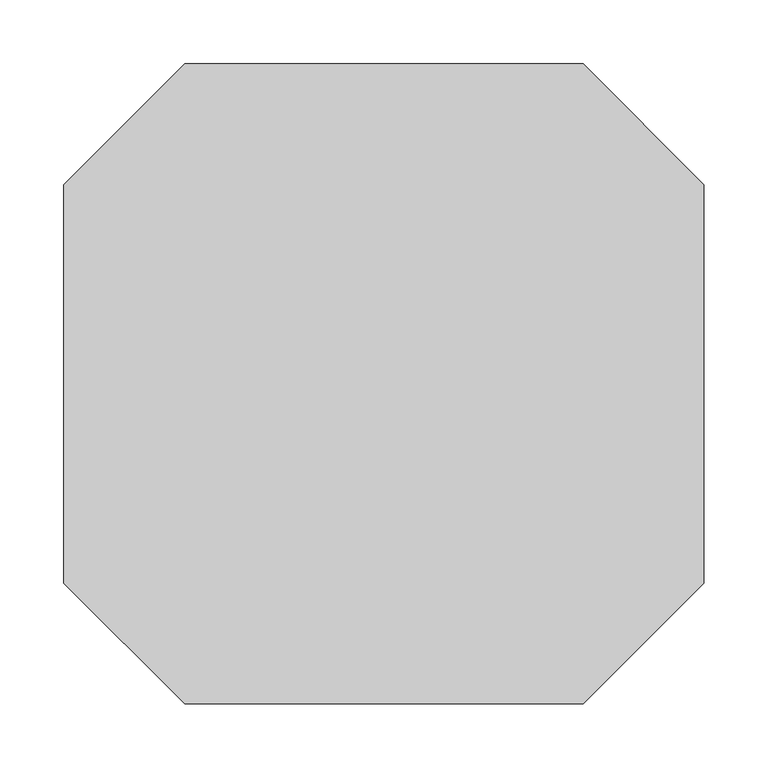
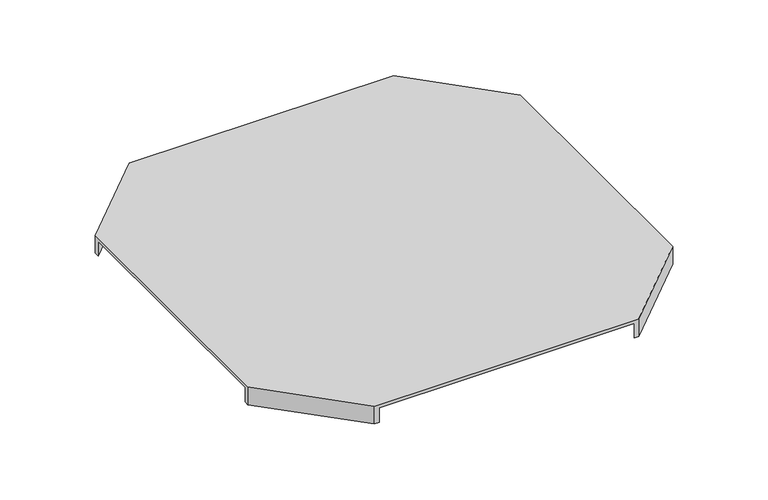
"""IFC4 building model written with IfcOpenShell, lengths in millimetres: proxy geometry, Horizontal Cross_Cover_TCRWT_Basorcanal : Basorcanal TCRWT 300."""

from ifc_helpers import new_model, si_unit, origin, place, context, project, spatial, faceted_brep, source, transform, mapped, element, save


def generic_models_63b5237f(model_context):
    return source(origin(), model_context, "Body", "Brep", [
        faceted_brep([(94.3431458, 0.0, 4.0), (0.0, -94.3431458, 4.0), (0.0, -405.6568542, 4.0), (94.3431458, -500.0, 4.0), (405.6568542, -500.0, 4.0), (500.0, -405.6568542, 4.0), (500.0, -94.3431458, 4.0), (405.6568542, 0.0, 4.0), (100.0, 0.0, 0.0), (400.0, 0.0, 0.0), (500.0, -100.0, 0.0), (500.0, -400.0, 0.0), (400.0, -500.0, 0.0), (100.0, -500.0, 0.0), (0.0, -400.0, 0.0), (0.0, -100.0, 0.0), (0.0, -400.0, -18.0), (0.0, -405.6568542, -18.0), (0.0, -94.3431458, -18.0), (0.0, -100.0, -18.0), (100.0, 0.0, -18.0), (94.3431458, 0.0, -18.0), (405.6568542, 0.0, -18.0), (400.0, 0.0, -18.0), (500.0, -100.0, -18.0), (500.0, -94.3431458, -18.0), (500.0, -405.6568542, -18.0), (500.0, -400.0, -18.0), (400.0, -500.0, -18.0), (405.6568542, -500.0, -18.0), (94.3431458, -500.0, -18.0), (100.0, -500.0, -18.0)], [[[0, 1, 2, 3, 4, 5, 6, 7]], [[8, 9, 10, 11, 12, 13, 14, 15]], [[15, 14, 16, 17, 2, 1, 18, 19]], [[9, 8, 20, 21, 0, 7, 22, 23]], [[18, 21, 20, 19]], [[1, 0, 21, 18]], [[19, 20, 8, 15]], [[11, 10, 24, 25, 6, 5, 26, 27]], [[13, 12, 28, 29, 4, 3, 30, 31]], [[24, 23, 22, 25]], [[23, 24, 10, 9]], [[7, 6, 25, 22]], [[17, 16, 31, 30]], [[3, 2, 17, 30]], [[31, 16, 14, 13]], [[27, 26, 29, 28]], [[27, 28, 12, 11]], [[5, 4, 29, 26]]]),
    ])


if __name__ == "__main__":
    model = new_model("IFC4")
    model_context = context("Model", 3, world=origin())
    ifc_project = project(units=[si_unit("LENGTHUNIT", "METRE", prefix="MILLI")], contexts=[model_context])
    site = spatial("IfcSite", under=ifc_project)
    building = spatial("IfcBuilding", under=site)
    placement = place(None, origin())
    generic_models_shape = generic_models_63b5237f(model_context)
    element("IfcBuildingElementProxy", 1, Name="Horizontal Cross_Cover_TCRWT_Basorcanal : Basorcanal TCRWT 300", ObjectType="Horizontal Cross_Cover_TCRWT_Basorcanal : Basorcanal TCRWT 300", at=placement, inside=building, context=model_context, shape_type="MappedRepresentation", body=[
        mapped(generic_models_shape, transform((0.0, 0.0, 0.0), x_axis=(1.0, 0.0, 0.0), y_axis=(0.0, 1.0, 0.0), z_axis=(0.0, 0.0, 1.0))),
    ])
    save(model, "model.ifc")
